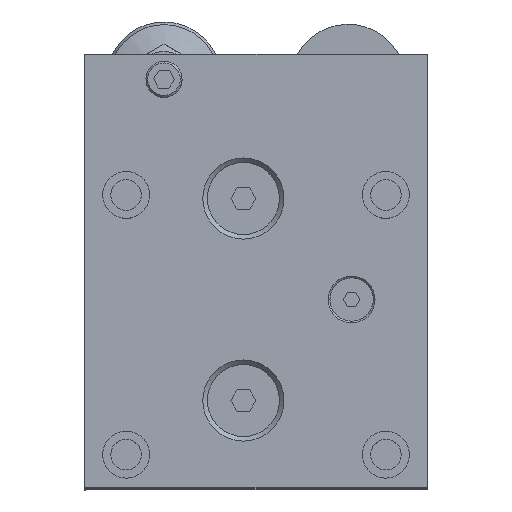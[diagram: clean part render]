
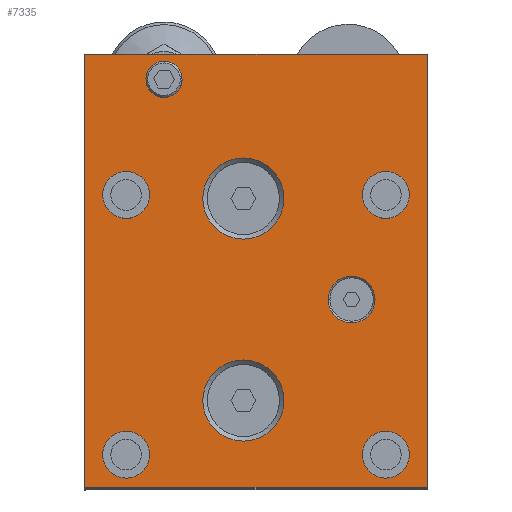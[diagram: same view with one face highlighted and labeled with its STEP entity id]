
A CAD part, top view. The second image highlights one B-rep face of the part: STEP entity #7335.
In plain terms, the highlighted planar face has unit normal (0, 0, 1).
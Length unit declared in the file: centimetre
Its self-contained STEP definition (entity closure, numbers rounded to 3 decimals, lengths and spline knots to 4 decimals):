
#556=FACE_BOUND('',#2092,.T.);
#557=FACE_BOUND('',#2093,.T.);
#558=FACE_BOUND('',#2094,.T.);
#559=FACE_BOUND('',#2095,.T.);
#560=FACE_BOUND('',#2096,.T.);
#561=FACE_BOUND('',#2097,.T.);
#562=FACE_BOUND('',#2098,.T.);
#563=FACE_BOUND('',#2099,.T.);
#920=CIRCLE('',#7847,0.5);
#956=CIRCLE('',#7934,0.65);
#960=CIRCLE('',#7941,0.65);
#964=CIRCLE('',#7948,0.65);
#968=CIRCLE('',#7955,0.65);
#975=CIRCLE('',#7972,1.125);
#976=CIRCLE('',#7974,1.125);
#977=CIRCLE('',#7976,0.65);
#1453=FACE_OUTER_BOUND('',#2091,.T.);
#2091=EDGE_LOOP('',(#5268,#5269,#5270,#5271));
#2092=EDGE_LOOP('',(#5272));
#2093=EDGE_LOOP('',(#5273));
#2094=EDGE_LOOP('',(#5274));
#2095=EDGE_LOOP('',(#5275));
#2096=EDGE_LOOP('',(#5276));
#2097=EDGE_LOOP('',(#5277));
#2098=EDGE_LOOP('',(#5278));
#2099=EDGE_LOOP('',(#5279));
#2908=LINE('',#11664,#3181);
#2910=LINE('',#11817,#3183);
#2911=LINE('',#11819,#3184);
#2912=LINE('',#11820,#3185);
#3181=VECTOR('',#9215,9.5);
#3183=VECTOR('',#9323,12.);
#3184=VECTOR('',#9324,12.);
#3185=VECTOR('',#9325,9.5);
#3469=VERTEX_POINT('',#11376);
#3518=VERTEX_POINT('',#11661);
#3519=VERTEX_POINT('',#11663);
#3524=VERTEX_POINT('',#11709);
#3528=VERTEX_POINT('',#11720);
#3533=VERTEX_POINT('',#11766);
#3537=VERTEX_POINT('',#11777);
#3544=VERTEX_POINT('',#11801);
#3545=VERTEX_POINT('',#11804);
#3546=VERTEX_POINT('',#11807);
#3549=VERTEX_POINT('',#11816);
#3550=VERTEX_POINT('',#11818);
#4163=EDGE_CURVE('',#3469,#3469,#920,.T.);
#4219=EDGE_CURVE('',#3519,#3518,#2908,.T.);
#4225=EDGE_CURVE('',#3524,#3524,#956,.T.);
#4229=EDGE_CURVE('',#3528,#3528,#960,.T.);
#4234=EDGE_CURVE('',#3533,#3533,#964,.T.);
#4238=EDGE_CURVE('',#3537,#3537,#968,.T.);
#4245=EDGE_CURVE('',#3544,#3544,#975,.T.);
#4246=EDGE_CURVE('',#3545,#3545,#976,.T.);
#4247=EDGE_CURVE('',#3546,#3546,#977,.T.);
#4250=EDGE_CURVE('',#3549,#3519,#2910,.T.);
#4251=EDGE_CURVE('',#3518,#3550,#2911,.T.);
#4252=EDGE_CURVE('',#3550,#3549,#2912,.T.);
#5268=ORIENTED_EDGE('',*,*,#4250,.T.);
#5269=ORIENTED_EDGE('',*,*,#4219,.T.);
#5270=ORIENTED_EDGE('',*,*,#4251,.T.);
#5271=ORIENTED_EDGE('',*,*,#4252,.T.);
#5272=ORIENTED_EDGE('',*,*,#4163,.T.);
#5273=ORIENTED_EDGE('',*,*,#4225,.T.);
#5274=ORIENTED_EDGE('',*,*,#4229,.T.);
#5275=ORIENTED_EDGE('',*,*,#4234,.T.);
#5276=ORIENTED_EDGE('',*,*,#4238,.T.);
#5277=ORIENTED_EDGE('',*,*,#4245,.T.);
#5278=ORIENTED_EDGE('',*,*,#4246,.T.);
#5279=ORIENTED_EDGE('',*,*,#4247,.T.);
#6562=PLANE('',#7981);
#7335=ADVANCED_FACE('',(#1453,#556,#557,#558,#559,#560,#561,#562,#563),
#6562,.T.);
#7847=AXIS2_PLACEMENT_3D('',#11377,#9032,#9033);
#7934=AXIS2_PLACEMENT_3D('',#11710,#9227,#9228);
#7941=AXIS2_PLACEMENT_3D('',#11721,#9241,#9242);
#7948=AXIS2_PLACEMENT_3D('',#11767,#9255,#9256);
#7955=AXIS2_PLACEMENT_3D('',#11778,#9269,#9270);
#7972=AXIS2_PLACEMENT_3D('',#11802,#9303,#9304);
#7974=AXIS2_PLACEMENT_3D('',#11805,#9307,#9308);
#7976=AXIS2_PLACEMENT_3D('',#11808,#9311,#9312);
#7981=AXIS2_PLACEMENT_3D('',#11815,#9321,#9322);
#9032=DIRECTION('center_axis',(0.,0.,
-1.));
#9033=DIRECTION('ref_axis',(0.883,0.47,0.));
#9215=DIRECTION('',(1.,0.,0.));
#9227=DIRECTION('center_axis',(0.,0.,
-1.));
#9228=DIRECTION('ref_axis',(0.,-1.,0.));
#9241=DIRECTION('center_axis',(0.,0.,
-1.));
#9242=DIRECTION('ref_axis',(0.,-1.,0.));
#9255=DIRECTION('center_axis',(0.,0.,
-1.));
#9256=DIRECTION('ref_axis',(0.,-1.,0.));
#9269=DIRECTION('center_axis',(0.,0.,
-1.));
#9270=DIRECTION('ref_axis',(0.,-1.,0.));
#9303=DIRECTION('center_axis',(0.,0.,
-1.));
#9304=DIRECTION('ref_axis',(0.,-1.,0.));
#9307=DIRECTION('center_axis',(0.,0.,
-1.));
#9308=DIRECTION('ref_axis',(0.,-1.,0.));
#9311=DIRECTION('center_axis',(0.,0.,
-1.));
#9312=DIRECTION('ref_axis',(0.,-1.,0.));
#9321=DIRECTION('center_axis',(0.,0.,
1.));
#9322=DIRECTION('ref_axis',(0.,-1.,0.));
#9323=DIRECTION('',(0.,-1.,0.));
#9324=DIRECTION('',(0.,1.,0.));
#9325=DIRECTION('',(-1.,0.,0.));
#11376=CARTESIAN_POINT('',(-3.1671,5.448,22.95));
#11377=CARTESIAN_POINT('Origin',(-2.7259,5.6832,22.95));
#11661=CARTESIAN_POINT('',(4.5741,-5.6168,22.95));
#11663=CARTESIAN_POINT('',(-4.9259,-5.6168,22.95));
#11664=CARTESIAN_POINT('',(-4.9259,-5.6168,22.95));
#11709=CARTESIAN_POINT('',(-3.7759,-5.3668,22.95));
#11710=CARTESIAN_POINT('Origin',(-3.7759,-4.7168,22.95));
#11720=CARTESIAN_POINT('',(3.4241,1.8332,22.95));
#11721=CARTESIAN_POINT('Origin',(3.4241,2.4832,22.95));
#11766=CARTESIAN_POINT('',(3.4241,-5.3668,22.95));
#11767=CARTESIAN_POINT('Origin',(3.4241,-4.7168,22.95));
#11777=CARTESIAN_POINT('',(-3.7759,1.8332,22.95));
#11778=CARTESIAN_POINT('Origin',(-3.7759,2.4832,22.95));
#11801=CARTESIAN_POINT('',(-0.5259,1.2582,22.95));
#11802=CARTESIAN_POINT('Origin',(-0.5259,2.3832,22.95));
#11804=CARTESIAN_POINT('',(-0.5259,-4.3418,22.95));
#11805=CARTESIAN_POINT('Origin',(-0.5259,-3.2168,22.95));
#11807=CARTESIAN_POINT('',(2.4741,-1.0668,22.95));
#11808=CARTESIAN_POINT('Origin',(2.4741,-0.4168,22.95));
#11815=CARTESIAN_POINT('Origin',(-0.1759,0.3832,22.95));
#11816=CARTESIAN_POINT('',(-4.9259,6.3832,22.95));
#11817=CARTESIAN_POINT('',(-4.9259,6.3832,22.95));
#11818=CARTESIAN_POINT('',(4.5741,6.3832,22.95));
#11819=CARTESIAN_POINT('',(4.5741,-5.6168,22.95));
#11820=CARTESIAN_POINT('',(4.5741,6.3832,22.95));
